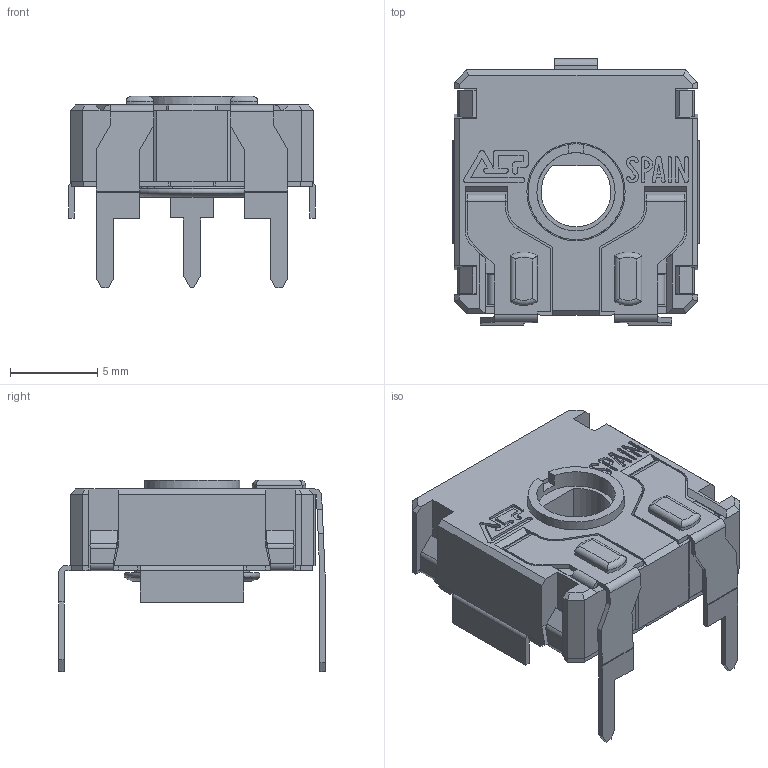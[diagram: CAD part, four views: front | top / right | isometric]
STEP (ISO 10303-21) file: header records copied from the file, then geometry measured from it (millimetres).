
FILE_DESCRIPTION(/* description */ (''),/* implementation_level */ '2;1');
FILE_NAME(/* name */ 'C:\Users\CEM\Desktop\ENVIAR\TRANSICION 3D CATALOGOS\CS14FV15 CFF.stp',/* time_stamp */ '2025-10-24T17:48:11+02:00',/* author */ ('CEM'),/* organization */ (''),/* preprocessor_version */ 'ST-DEVELOPER v17',/* originating_system */ 'Autodesk Inventor 2018',/* authorisation */ '');
FILE_SCHEMA (('AUTOMOTIVE_DESIGN { 1 0 10303 214 3 1 1 }'));
Length unit declared in the file: millimetre
Products named in the file (1): CS14FV15 CFF
Bounding box: 14.15 x 15.3 x 11 mm (x, y, z)
Volume: 557.1 mm3; surface area: 1662 mm2
Topology: 1 solids, 3 shells, 720 faces, 2022 edges, 1305 vertices
Faces by surface type: plane 547, cylinder 139, cone 15, bspline 10, torus 9
Full cylindrical faces by diameter (mm): 4.5 x1, 5.5 x1, 5.65 x1, 6.87 x1
Entity records: 24038 total; most frequent: CARTESIAN_POINT 4475, ORIENTED_EDGE 4044, DIRECTION 3762, EDGE_CURVE 2022, LINE 1594, VECTOR 1594, VERTEX_POINT 1305, AXIS2_PLACEMENT_3D 1084
